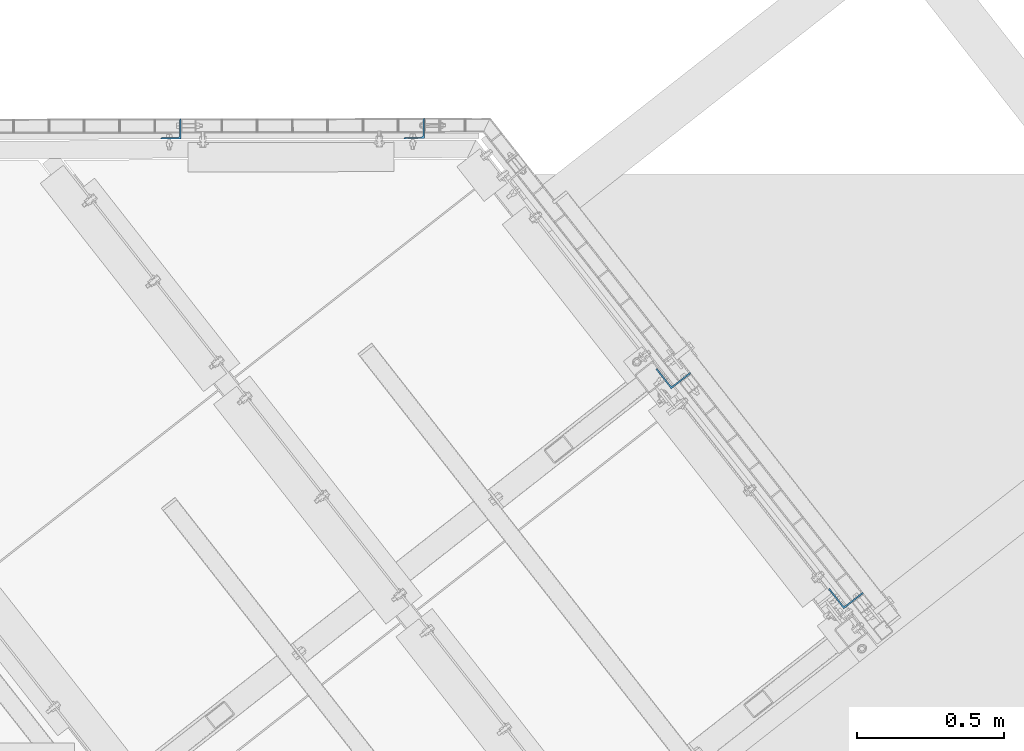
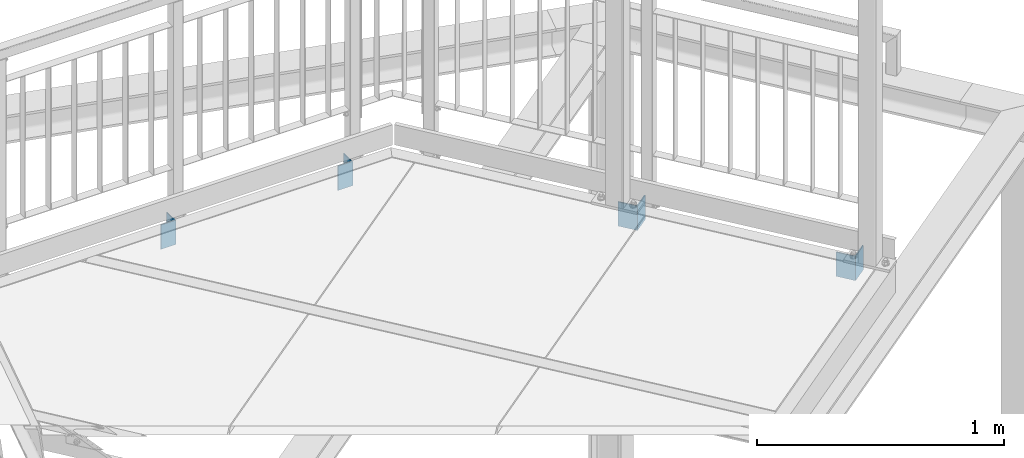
# One storey, part 9 of 169: 4 columns, 4 elements without a shape of their own.
"""IFC2X3 building model written with IfcOpenShell, lengths in millimetres."""

from ifc_helpers import new_model, si_unit, frame, origin_with_axes, origin_2d_with_axis, place, context, subcontext, project, spatial, l_section, extrude, material, type_object, element, aggregate, save


model = new_model("IFC2X3")

# Units and contexts
model_context = context("Model", 3, precision=1e-05, world=origin_with_axes())
body_context = subcontext(model_context, "Body", "Model", "MODEL_VIEW")
ifc_project = project(units=[si_unit("LENGTHUNIT", "METRE", prefix="MILLI"), si_unit("AREAUNIT", "SQUARE_METRE"), si_unit("VOLUMEUNIT", "CUBIC_METRE"), si_unit("MASSUNIT", "GRAM", prefix="KILO"), si_unit("TIMEUNIT", "SECOND"), si_unit("PLANEANGLEUNIT", "RADIAN"), si_unit("SOLIDANGLEUNIT", "STERADIAN"), si_unit("THERMODYNAMICTEMPERATUREUNIT", "DEGREE_CELSIUS"), si_unit("LUMINOUSINTENSITYUNIT", "LUMEN")], contexts=[model_context])

# Site, building, storey
site_placement = place(None, origin_with_axes())
site = spatial("IfcSite", under=ifc_project, at=site_placement, Name="Undefined", CompositionType="ELEMENT")
building_placement = place(site_placement, origin_with_axes())
building = spatial("IfcBuilding", under=site, at=building_placement, Name="Undefined", CompositionType="ELEMENT")
storey_placement = place(building_placement, origin_with_axes())
storey = spatial("IfcBuildingStorey", under=building, at=storey_placement, Name="Undefined", CompositionType="ELEMENT", Elevation=0.0)

# Assembly, column
assembly_1_placement = place(storey_placement, origin_with_axes())
assembly_1 = element("IfcElementAssembly", 1, at=assembly_1_placement, inside=storey, Name="Steel Assembly", AssemblyPlace="NOTDEFINED", PredefinedType="RIGID_FRAME")
ifc_material = material(Name="STEEL/S235")
column_type_1 = type_object("IfcColumnType", Name="L70*5", PredefinedType="NOTDEFINED")
column_1_placement = place(assembly_1_placement, frame((20109.6164778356, 2276.82666251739, 13664.982391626), z_axis=(0.0, 0.0, 1.0), x_axis=(-0.00162384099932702, 0.999998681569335, -1.10000109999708e-08)))
column_1 = element("IfcColumn", 2, at=column_1_placement, type_object=column_type_1, material=ifc_material, Name="BEAM", ObjectType="L70*5", context=body_context, shape_type="SweptSolid", body=[
    extrude(l_section(Depth=70.0, Width=70.0, Thickness=5.0, FilletRadius=9.0, EdgeRadius=4.5, at=origin_2d_with_axis()), frame((-4.54747350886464e-13, 0.0, 120.000000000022), z_axis=(-2.54700353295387e-10, 0.0, -1.0), x_axis=(0.0, 1.0, 0.0)), (0.0, 0.0, 1.0), 120.0),
])
aggregate(assembly_1, [column_1])

assembly_2_placement = place(storey_placement, origin_with_axes())
assembly_2 = element("IfcElementAssembly", 3, at=assembly_2_placement, inside=storey, Name="Steel Assembly", AssemblyPlace="NOTDEFINED", PredefinedType="RIGID_FRAME")
column_2_placement = place(assembly_2_placement, frame((20937.4696888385, 2278.17096629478, 13664.9825290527), z_axis=(0.0, 0.0, 1.0), x_axis=(-0.00162384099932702, 0.999998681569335, -1.10000109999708e-08)))
column_2 = element("IfcColumn", 4, at=column_2_placement, type_object=column_type_1, material=ifc_material, Name="BEAM", ObjectType="L70*5", context=body_context, shape_type="SweptSolid", body=[
    extrude(l_section(Depth=70.0, Width=70.0, Thickness=5.0, FilletRadius=9.0, EdgeRadius=4.5, at=origin_2d_with_axis()), frame((-4.54747350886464e-13, 0.0, 120.000000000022), z_axis=(-2.54700353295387e-10, 0.0, -1.0), x_axis=(0.0, 1.0, 0.0)), (0.0, 0.0, 1.0), 120.0),
])
aggregate(assembly_2, [column_2])

assembly_3_placement = place(storey_placement, origin_with_axes())
assembly_3 = element("IfcElementAssembly", 5, at=assembly_3_placement, inside=storey, Name="Steel Assembly", AssemblyPlace="NOTDEFINED", PredefinedType="RIGID_FRAME")
column_type_2 = type_object("IfcColumnType", Name="L85*5", PredefinedType="NOTDEFINED")
column_3_placement = place(assembly_3_placement, frame((22405.2720624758, 704.180138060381, 13665.4177800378), z_axis=(0.0, 0.0, 1.0), x_axis=(0.786773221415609, 0.617242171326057, 0.0)))
column_3 = element("IfcColumn", 6, at=column_3_placement, type_object=column_type_2, material=ifc_material, Name="BEAM", ObjectType="L85*5", context=body_context, shape_type="SweptSolid", body=[
    extrude(l_section(Depth=85.0, Width=85.0, Thickness=5.0, FilletRadius=7.5, at=origin_2d_with_axis()), frame((-4.54747350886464e-13, 0.0, 120.000000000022), z_axis=(-2.54700353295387e-10, 0.0, -1.0), x_axis=(0.0, 1.0, 0.0)), (0.0, 0.0, 1.0), 120.0),
])
aggregate(assembly_3, [column_3])

assembly_4_placement = place(storey_placement, origin_with_axes())
assembly_4 = element("IfcElementAssembly", 7, at=assembly_4_placement, inside=storey, Name="Steel Assembly", AssemblyPlace="NOTDEFINED", PredefinedType="RIGID_FRAME")
column_4_placement = place(assembly_4_placement, frame((21818.505148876, 1452.10782243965, 13665.4176507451), z_axis=(0.0, 0.0, 1.0), x_axis=(0.786773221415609, 0.617242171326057, 0.0)))
column_4 = element("IfcColumn", 8, at=column_4_placement, type_object=column_type_2, material=ifc_material, Name="BEAM", ObjectType="L85*5", context=body_context, shape_type="SweptSolid", body=[
    extrude(l_section(Depth=85.0, Width=85.0, Thickness=5.0, FilletRadius=7.5, at=origin_2d_with_axis()), frame((-4.54747350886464e-13, 0.0, 120.000000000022), z_axis=(-2.54700353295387e-10, 0.0, -1.0), x_axis=(0.0, 1.0, 0.0)), (0.0, 0.0, 1.0), 120.0),
])
aggregate(assembly_4, [column_4])

save(model, "model.ifc")
